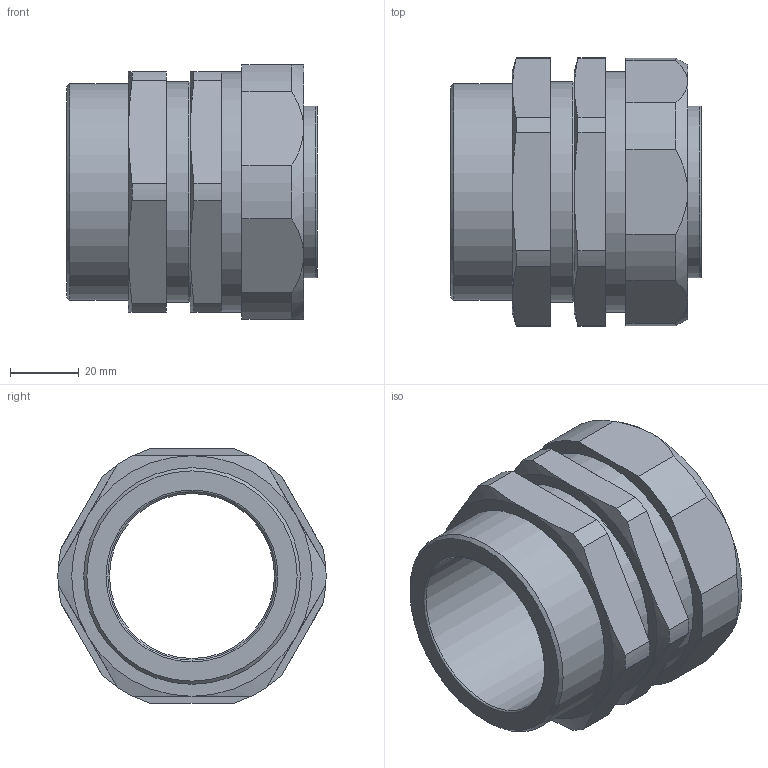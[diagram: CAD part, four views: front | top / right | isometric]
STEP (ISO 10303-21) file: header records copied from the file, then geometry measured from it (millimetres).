
FILE_DESCRIPTION( ( 'STEP AP214' ), '1' );
FILE_NAME( 'p:/temp/worker_4/temp/app_76_02018121420302391414223192d056f_000000_00_00_000000/format_0/6014-6350G.stp', '2018-12-14T19:30:24', ( '' ), ( '' ), ' ', 'PARTsolutions', ' ' );
FILE_SCHEMA( ( 'AUTOMOTIVE_DESIGN { 1 0 10303 214 1 1 1 1 }' ) );
Length unit declared in the file: millimetre
Products named in the file (1): _6014-6350G
Bounding box: 73 x 77.98 x 74 mm (x, y, z)
Volume: 120327.5 mm3; surface area: 42924.2 mm2
Topology: 1 solids, 1 shells, 81 faces, 187 edges, 114 vertices
Faces by surface type: plane 32, cylinder 25, cone 20, torus 4
Full cylindrical faces by diameter (mm): 48 x1, 49 x1, 50 x1, 60 x1, 63 x1, 64 x1, 70 x1
Entity records: 3058 total; most frequent: CARTESIAN_POINT 614, DIRECTION 380, ORIENTED_EDGE 348, EDGE_CURVE 174, AXIS2_PLACEMENT_3D 160, VERTEX_POINT 114, EDGE_LOOP 102, FACE_OUTER_BOUND 92
